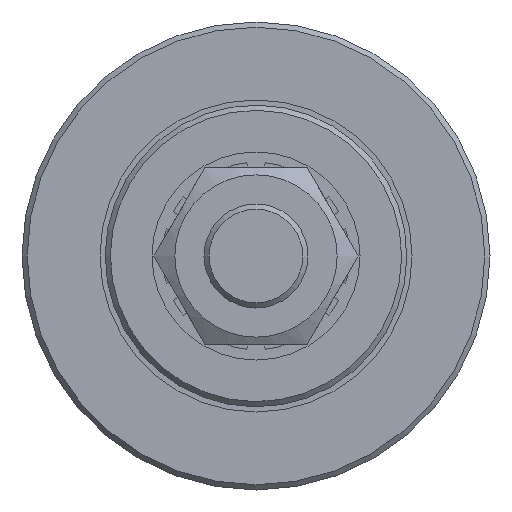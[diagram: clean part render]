
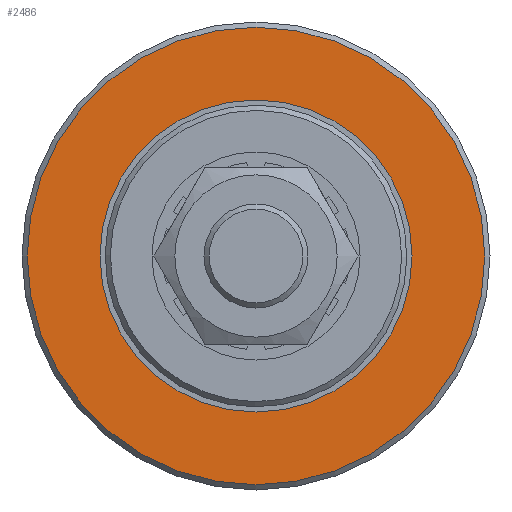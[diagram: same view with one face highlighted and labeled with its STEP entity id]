
A CAD part, left-side view. The second image highlights one B-rep face of the part: STEP entity #2486.
In plain terms, the highlighted planar face has unit normal (-1, 0, 0).
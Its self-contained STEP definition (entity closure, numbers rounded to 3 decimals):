
#526=FACE_BOUND('',#728,.T.);
#574=FACE_OUTER_BOUND('',#727,.T.);
#727=EDGE_LOOP('',(#1717));
#728=EDGE_LOOP('',(#1718));
#928=CIRCLE('',#2648,22.);
#929=CIRCLE('',#2649,15.);
#1106=VERTEX_POINT('',#3861);
#1107=VERTEX_POINT('',#3863);
#1360=EDGE_CURVE('',#1106,#1106,#928,.T.);
#1361=EDGE_CURVE('',#1107,#1107,#929,.T.);
#1717=ORIENTED_EDGE('',*,*,#1360,.F.);
#1718=ORIENTED_EDGE('',*,*,#1361,.T.);
#2431=PLANE('',#2647);
#2486=ADVANCED_FACE('',(#574,#526),#2431,.T.);
#2647=AXIS2_PLACEMENT_3D('',#3860,#2997,#2998);
#2648=AXIS2_PLACEMENT_3D('',#3862,#2999,#3000);
#2649=AXIS2_PLACEMENT_3D('',#3864,#3001,#3002);
#2997=DIRECTION('center_axis',(-1.,0.,0.));
#2998=DIRECTION('ref_axis',(0.,0.,1.));
#2999=DIRECTION('center_axis',(1.,0.,0.));
#3000=DIRECTION('ref_axis',(0.,1.,0.));
#3001=DIRECTION('center_axis',(1.,0.,0.));
#3002=DIRECTION('ref_axis',(0.,1.,0.));
#3860=CARTESIAN_POINT('Origin',(-10.,18.5,0.));
#3861=CARTESIAN_POINT('',(-10.,22.,0.));
#3862=CARTESIAN_POINT('Origin',(-10.,0.,0.));
#3863=CARTESIAN_POINT('',(-10.,15.,0.));
#3864=CARTESIAN_POINT('Origin',(-10.,0.,0.));
